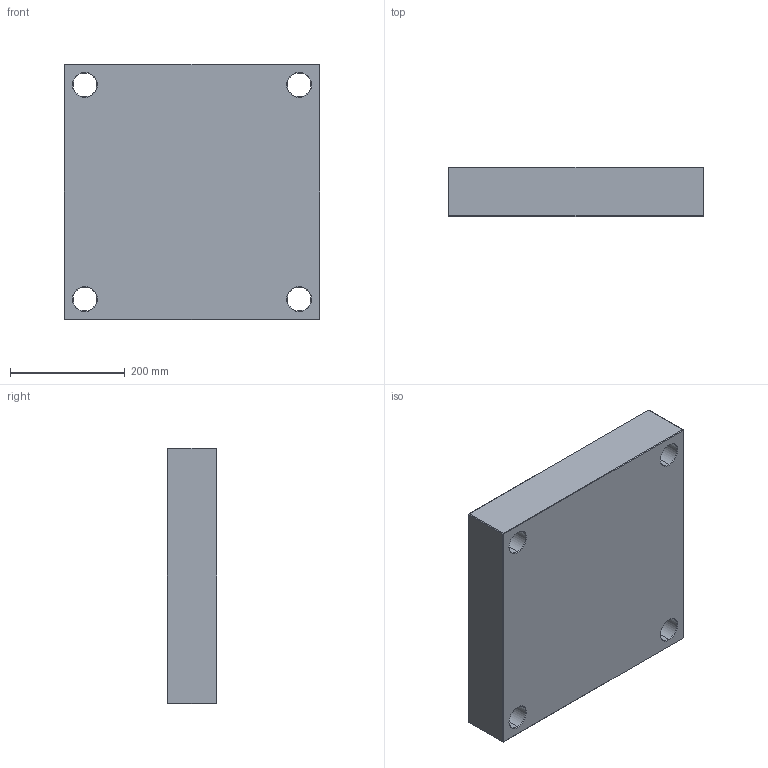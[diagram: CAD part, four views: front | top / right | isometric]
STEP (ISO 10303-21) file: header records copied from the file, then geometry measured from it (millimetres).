
FILE_DESCRIPTION (( 'STEP AP214' ), '1' );
FILE_NAME ('PCX-446x446x86.STEP', '2020-05-04T10:07:25', ( 'August' ), ( '' ), 'SwSTEP 2.0', 'SolidWorks 2018', '' );
FILE_SCHEMA (( 'AUTOMOTIVE_DESIGN' ));
Length unit declared in the file: millimetre
Products named in the file (1): PCX-446x446x86
Bounding box: 446 x 86 x 446 mm (x, y, z)
Volume: 16611365 mm3; surface area: 587674.9 mm2
Topology: 1 solids, 1 shells, 82 faces, 168 edges, 96 vertices
Faces by surface type: plane 34, cone 24, cylinder 24
Entity records: 2170 total; most frequent: DIRECTION 406, CARTESIAN_POINT 347, ORIENTED_EDGE 336, EDGE_CURVE 168, AXIS2_PLACEMENT_3D 155, EDGE_LOOP 98, VERTEX_POINT 96, LINE 96
